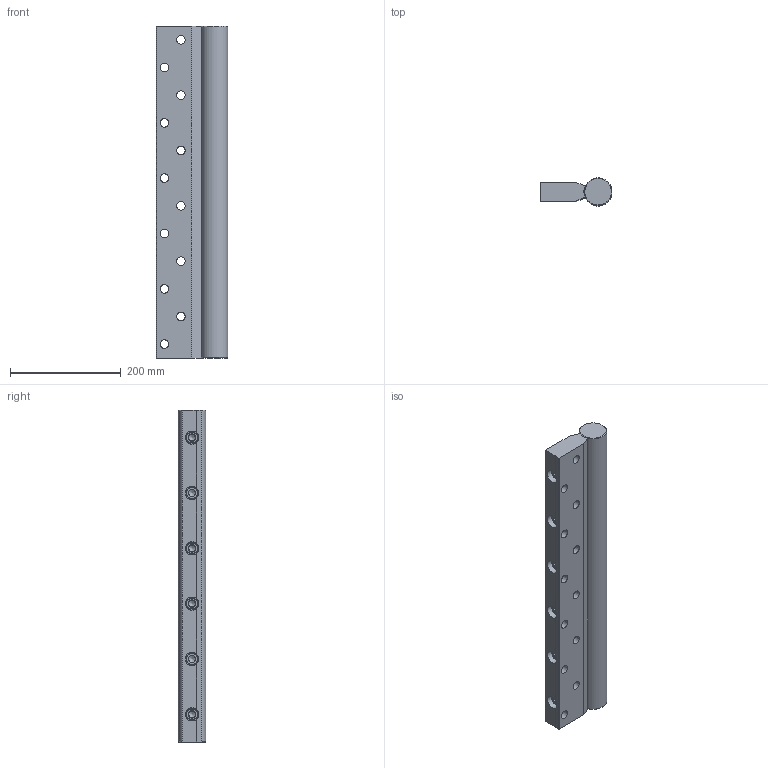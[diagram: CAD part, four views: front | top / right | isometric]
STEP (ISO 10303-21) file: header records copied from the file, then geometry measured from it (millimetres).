
FILE_DESCRIPTION(('STEP AP203'),'1');
FILE_NAME('SGY50-600.stp','2022-07-07T04:53:27',(' '),(' '),'Spatial InterOp 3D',' ',' ');
FILE_SCHEMA(('CONFIG_CONTROL_DESIGN'));
Length unit declared in the file: millimetre
Products named in the file (4): SGY50-600; M14-80; OP50-600_SRY; SRY-50
Assembly tree (8 placements, depth 2):
  SGY50-600
    M14-80  x6
    OP50-600_SRY
    SRY-50
Bounding box: 130 x 50 x 600 mm (x, y, z)
Volume: 2592989.3 mm3; surface area: 320587.2 mm2
Topology: 8 solids, 8 shells, 221 faces, 475 edges, 282 vertices
Faces by surface type: plane 92, cone 62, cylinder 61, torus 6
Full cylindrical faces by diameter (mm): 12 x12, 14 x6, 15.5 x18, 21 x6, 24 x18, 50 x1
Entity records: 4146 total; most frequent: CARTESIAN_POINT 1282, DIRECTION 542, ORIENTED_EDGE 394, AXIS2_PLACEMENT_3D 244, EDGE_LOOP 222, EDGE_CURVE 197, FACE_OUTER_BOUND 168, VERTEX_POINT 164
